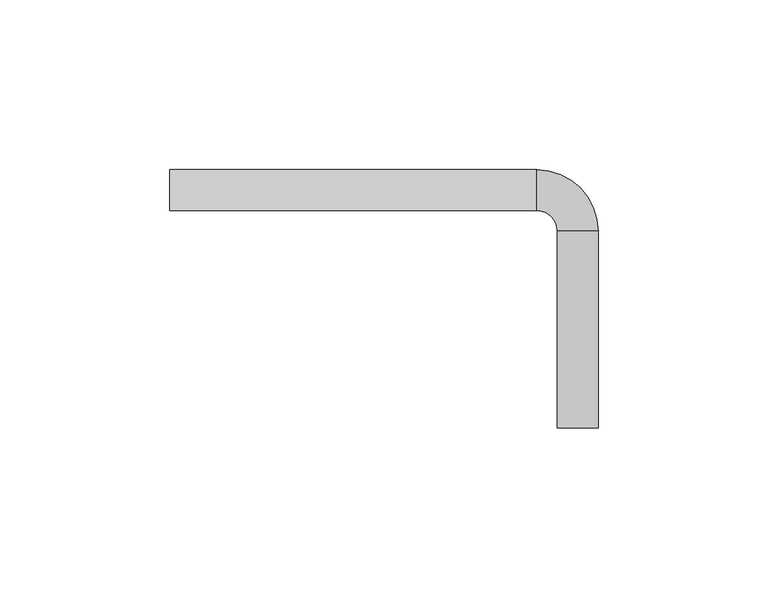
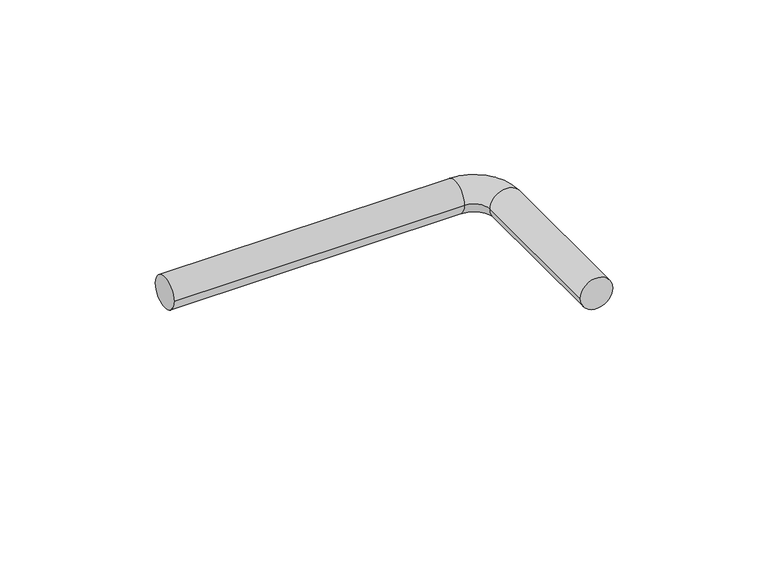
"""IFC4 building model written with IfcOpenShell, lengths in millimetres: pipe fitting geometry, KAN-therm Steel łuk 90 : KAN-therm Steel łuk 90."""

from ifc_helpers import new_model, si_unit, point, frame, origin, place, context, project, spatial, circle_curve, ellipse_curve, trimmed, source, transform, mapped, element, save
from ifc_brep_helpers import plane_surface, cylinder_surface, revolved_surface, advanced_brep


def pipe_fitting_5a79280a(model_context):
    return source(origin(), model_context, "Body", "AdvancedBrep", [
        advanced_brep(
        [(126.0, -70.0, 0.0), (114.0, -70.0, 0.0), (126.0, -12.0, 0.0), (114.0, -12.0, 0.0), (108.0, -6.0, 0.0), (108.0, 6.0, 0.0), (0.0, 6.0, 0.0), (0.0, -6.0, 0.0)],
        [
            (0, 1, circle_curve(frame((120.0, -70.0, 0.0), z_axis=(0.0, -1.0, 0.0), x_axis=(-1.0, 0.0, 0.0)), 6.0)),
            (1, 0, circle_curve(frame((120.0, -70.0, 0.0), z_axis=(0.0, -1.0, 0.0), x_axis=(-1.0, 0.0, 0.0)), 6.0)),
            (0, 2),
            (2, 3, circle_curve(frame((120.0, -12.0, 0.0), z_axis=(0.0, -1.0, 0.0), x_axis=(-1.0, 0.0, 0.0)), 6.0)),
            (3, 1),
            (3, 2, circle_curve(frame((120.0, -12.0, 0.0), z_axis=(0.0, -1.0, 0.0), x_axis=(-1.0, 0.0, 0.0)), 6.0)),
            (4, 3, circle_curve(frame((108.0, -12.0, 0.0), z_axis=(0.0, 0.0, -1.0), x_axis=(1.0, 0.0, 0.0)), 6.0)),
            (2, 5, circle_curve(frame((108.0, -12.0, 0.0), z_axis=(0.0, 0.0, 1.0), x_axis=(1.0, 0.0, 0.0)), 18.0)),
            (5, 4, circle_curve(frame((108.0, 0.0, 0.0), z_axis=(1.0, 0.0, 0.0), x_axis=(0.0, -1.0, 0.0)), 6.0)),
            (4, 5, circle_curve(frame((108.0, 0.0, 0.0), z_axis=(1.0, 0.0, 0.0), x_axis=(0.0, -1.0, 0.0)), 6.0)),
            (6, 7, circle_curve(frame((0.0, 0.0, 0.0), z_axis=(-1.0, 0.0, 0.0), x_axis=(0.0, -1.0, 0.0)), 6.0)),
            (7, 6, circle_curve(frame((0.0, 0.0, 0.0), z_axis=(-1.0, 0.0, 0.0), x_axis=(0.0, -1.0, 0.0)), 6.0)),
            (5, 6),
            (7, 4),
        ],
        [
            plane_surface(frame((120.0, -70.0, 0.0), z_axis=(0.0, -1.0, 0.0), x_axis=(0.0, 0.0, 1.0))),
            cylinder_surface(frame((120.0, -70.0, 0.0), z_axis=(0.0, -1.0, 0.0), x_axis=(-1.0, 0.0, 0.0)), 6.0),
            revolved_surface(trimmed(ellipse_curve(frame((120.0, -12.0, 0.0), z_axis=(0.0, -1.0, 0.0), x_axis=(-1.0, 0.0, 0.0)), 6.0, 6.0), [point((126.0, -12.0, 0.0))], [point((114.0, -12.0, 0.0))], True, "CARTESIAN"), (108.0, -12.0, 0.0), (0.0, 0.0, 1.0)),
            revolved_surface(trimmed(ellipse_curve(frame((120.0, -12.0, 0.0), z_axis=(0.0, -1.0, 0.0), x_axis=(-1.0, 0.0, 0.0)), 6.0, 6.0), [point((114.0, -12.0, 0.0))], [point((126.0, -12.0, 0.0))], True, "CARTESIAN"), (108.0, -12.0, 0.0), (0.0, 0.0, 1.0)),
            plane_surface(frame((0.0, 0.0, 0.0), z_axis=(-1.0, 0.0, 0.0), x_axis=(0.0, 0.0, 1.0))),
            cylinder_surface(frame((108.0, 0.0, 0.0), z_axis=(1.0, 0.0, 0.0), x_axis=(0.0, -1.0, 0.0)), 6.0),
        ],
        [
            (0, [[1, 2]]),
            (1, [[-1, 3, 4, 5]]),
            (1, [[-2, -5, 6, -3]]),
            (2, [[7, -4, 8, 9]]),
            (3, [[-8, -6, -7, 10]]),
            (4, [[11, 12]]),
            (5, [[-9, 13, -12, 14]]),
            (5, [[-10, -14, -11, -13]]),
        ],
    ),
    ])


if __name__ == "__main__":
    model = new_model("IFC4")
    model_context = context("Model", 3, world=origin())
    ifc_project = project(units=[si_unit("LENGTHUNIT", "METRE", prefix="MILLI")], contexts=[model_context])
    site = spatial("IfcSite", under=ifc_project)
    building = spatial("IfcBuilding", under=site)
    placement = place(None, origin())
    pipe_fitting_shape = pipe_fitting_5a79280a(model_context)
    element("IfcPipeFitting", 1, ObjectType="KAN-therm Steel łuk 90 : KAN-therm Steel łuk 90", at=placement, inside=building, context=model_context, shape_type="MappedRepresentation", body=[
        mapped(pipe_fitting_shape, transform((0.0, 0.0, 0.0), x_axis=(1.0, 0.0, 0.0), y_axis=(0.0, 1.0, 0.0), z_axis=(0.0, 0.0, 1.0))),
    ])
    save(model, "model.ifc")
